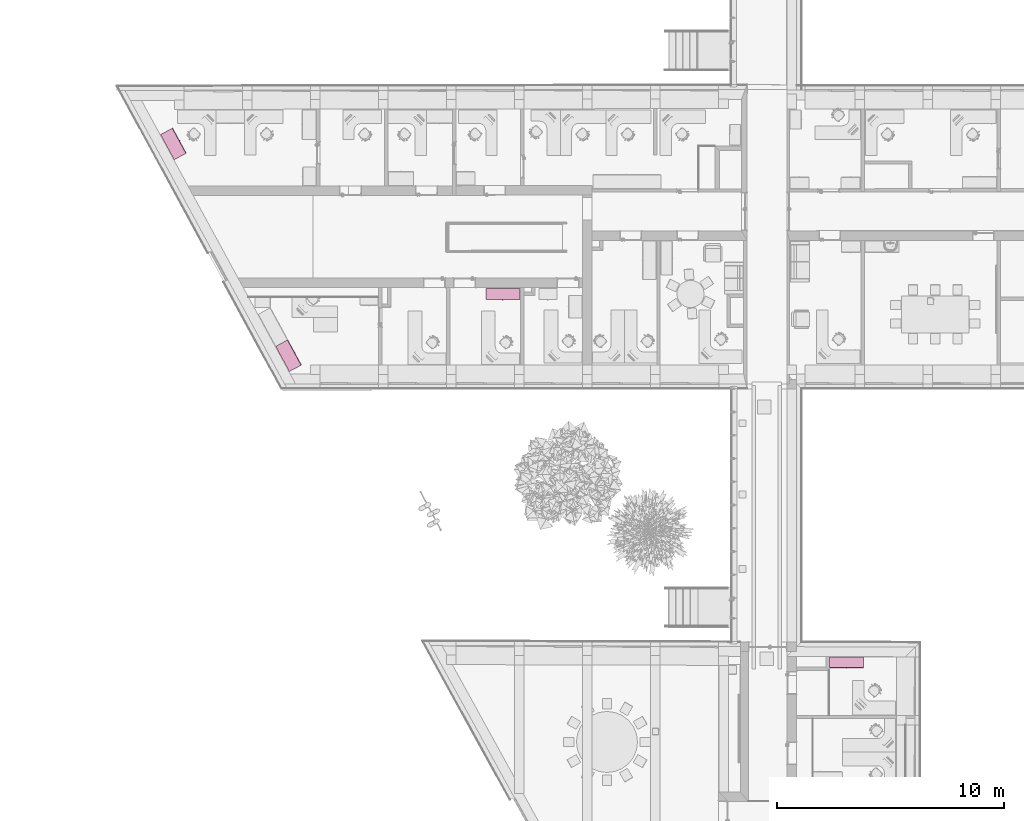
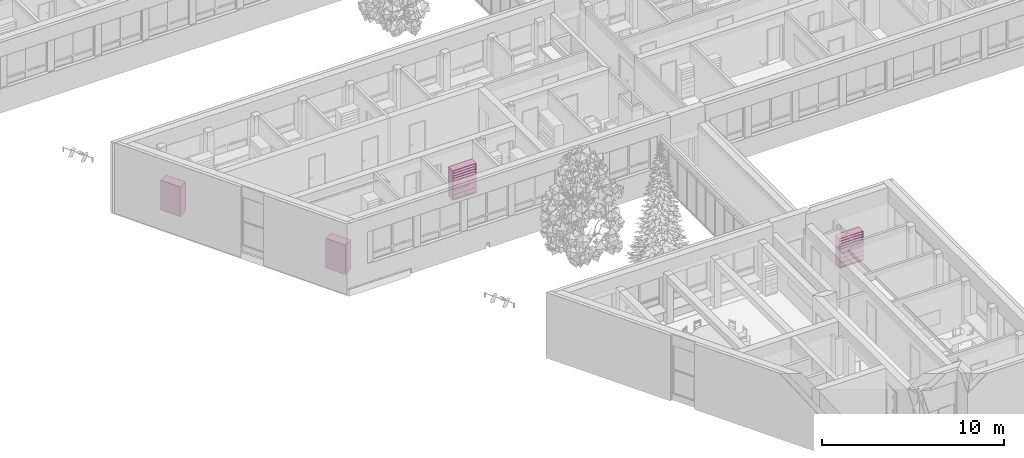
# One storey, part 126 of 194: 4 furnishings.
"""IFC2X3 building model written with IfcOpenShell, lengths in millimetres."""

from ifc_helpers import new_model, entity, si_unit, converted_unit, derived_unit, money_unit, direction, frame, origin_with_axes, place, context, subcontext, project, spatial, faceted_brep, source, transform, mapped, type_object, element, save


model = new_model("IFC2X3")

# Units and contexts
model_context = context("Model", 3, precision=1e-05, world=origin_with_axes(), true_north=direction((0.0, 1.0)))
body_context = subcontext(model_context, "Body", "Model", "MODEL_VIEW")
ifc_project = project(units=[si_unit("LENGTHUNIT", "METRE", prefix="MILLI"), si_unit("AREAUNIT", "SQUARE_METRE"), si_unit("VOLUMEUNIT", "CUBIC_METRE"), converted_unit("PLANEANGLEUNIT", "DEGREE", entity("IfcPlaneAngleMeasure", 0.0174532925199), si_unit("PLANEANGLEUNIT", "RADIAN"), dimensions=[0, 0, 0, 0, 0, 0, 0]), si_unit("SOLIDANGLEUNIT", "STERADIAN"), money_unit("EUR"), converted_unit("TIMEUNIT", "Year", entity("IfcTimeMeasure", 31556926.0), si_unit("TIMEUNIT", "SECOND"), dimensions=[0, 0, 1, 0, 0, 0, 0]), si_unit("MASSUNIT", "GRAM", prefix="KILO"), si_unit("THERMODYNAMICTEMPERATUREUNIT", "DEGREE_CELSIUS"), si_unit("LUMINOUSINTENSITYUNIT", "LUMEN"), si_unit("ENERGYUNIT", "JOULE", prefix="MEGA"), derived_unit("THERMALCONDUCTANCEUNIT", [(si_unit("POWERUNIT", "WATT"), 1), (si_unit("LENGTHUNIT", "METRE"), -1), (si_unit("THERMODYNAMICTEMPERATUREUNIT", "KELVIN"), -1)]), derived_unit("SPECIFICHEATCAPACITYUNIT", [(si_unit("ENERGYUNIT", "JOULE"), 1), (si_unit("MASSUNIT", "GRAM", prefix="KILO"), -1), (si_unit("THERMODYNAMICTEMPERATUREUNIT", "KELVIN"), -1)]), derived_unit("MASSDENSITYUNIT", [(si_unit("MASSUNIT", "GRAM", prefix="KILO"), 1), (si_unit("VOLUMEUNIT", "CUBIC_METRE"), -1)])], contexts=[model_context])

# Site, building, storey
site_placement = place(None, origin_with_axes())
site = spatial("IfcSite", under=ifc_project, at=site_placement, Name="Site", CompositionType="ELEMENT")
building_placement = place(site_placement, origin_with_axes())
building = spatial("IfcBuilding", under=site, at=building_placement, Name="Building", CompositionType="ELEMENT")
storey_placement = place(building_placement, frame((0.0, 0.0, 3000.0), z_axis=(0.0, 0.0, 1.0), x_axis=(1.0, 0.0, 0.0)))
storey = spatial("IfcBuildingStorey", under=building, at=storey_placement, Name="2 KORRUS", CompositionType="ELEMENT", Elevation=3000.0)

# Furnishings
furnishing_element_type_1 = type_object("IfcFurnishingElementType", Name="Model Element 74")
shared_shape_1 = source(origin_with_axes(), body_context, "Body", "Brep", [
    faceted_brep([(1500.0, 19.0, 0.0), (0.0, 19.0, 0.0), (0.0, 501.688731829, 0.0), (1500.0, 501.688731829, 0.0), (1500.0, 19.0, 100.0), (0.0, 19.0, 100.0), (0.0, 501.688731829, 100.0), (1500.0, 501.688731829, 100.0)], [[[0, 1, 2, 3]], [[1, 0, 4, 5]], [[2, 1, 5, 6]], [[3, 2, 6, 7]], [[0, 3, 7, 4]], [[5, 4, 7, 6]]]),
    faceted_brep([(19.0, 501.688731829, 119.0), (19.0, 482.688731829, 119.0), (19.0, 482.688731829, 1981.0), (19.0, 501.688731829, 1981.0), (1481.0, 501.688731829, 119.0), (1481.0, 482.688731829, 119.0), (1481.0, 482.688731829, 1981.0), (1481.0, 501.688731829, 1981.0)], [[[0, 1, 2, 3]], [[0, 4, 5, 1]], [[1, 5, 6, 2]], [[3, 2, 6, 7]], [[4, 0, 3, 7]], [[5, 4, 7, 6]]]),
    faceted_brep([(1500.0, 19.0, 100.0), (1481.0, 19.0, 100.0), (1481.0, 501.688731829, 100.0), (1500.0, 501.688731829, 100.0), (1500.0, 19.0, 2000.0), (1481.0, 19.0, 2000.0), (1481.0, 501.688731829, 2000.0), (1500.0, 501.688731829, 2000.0)], [[[0, 1, 2, 3]], [[1, 0, 4, 5]], [[2, 1, 5, 6]], [[3, 2, 6, 7]], [[0, 3, 7, 4]], [[5, 4, 7, 6]]]),
    faceted_brep([(19.0, 19.0, 100.0), (0.0, 19.0, 100.0), (0.0, 501.688731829, 100.0), (19.0, 501.688731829, 100.0), (19.0, 19.0, 2000.0), (0.0, 19.0, 2000.0), (0.0, 501.688731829, 2000.0), (19.0, 501.688731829, 2000.0)], [[[0, 1, 2, 3]], [[1, 0, 4, 5]], [[2, 1, 5, 6]], [[3, 2, 6, 7]], [[0, 3, 7, 4]], [[5, 4, 7, 6]]]),
    faceted_brep([(1481.0, 19.0, 100.0), (19.0, 19.0, 100.0), (19.0, 501.688731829, 100.0), (1481.0, 501.688731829, 100.0), (1481.0, 19.0, 119.0), (19.0, 19.0, 119.0), (19.0, 501.688731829, 119.0), (1481.0, 501.688731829, 119.0)], [[[0, 1, 2, 3]], [[1, 0, 4, 5]], [[2, 1, 5, 6]], [[3, 2, 6, 7]], [[0, 3, 7, 4]], [[5, 4, 7, 6]]]),
    faceted_brep([(1481.0, 19.0, 1981.0), (19.0, 19.0, 1981.0), (19.0, 501.688731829, 1981.0), (1481.0, 501.688731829, 1981.0), (1481.0, 19.0, 2000.0), (19.0, 19.0, 2000.0), (19.0, 501.688731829, 2000.0), (1481.0, 501.688731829, 2000.0)], [[[0, 1, 2, 3]], [[1, 0, 4, 5]], [[2, 1, 5, 6]], [[3, 2, 6, 7]], [[0, 3, 7, 4]], [[5, 4, 7, 6]]]),
    faceted_brep([(5.0, 19.0, 105.0), (1495.0, 19.0, 105.0), (1495.0, 0.0, 105.0), (5.0, 0.0, 105.0), (5.0, 19.0, 395.0), (1495.0, 19.0, 395.0), (1495.0, 0.0, 395.0), (5.0, 0.0, 395.0)], [[[0, 1, 2, 3]], [[0, 4, 5, 1]], [[1, 5, 6, 2]], [[3, 2, 6, 7]], [[4, 0, 3, 7]], [[5, 4, 7, 6]]]),
    faceted_brep([(760.392304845, 0.0, 244.0), (756.0, 0.0, 239.607695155), (750.0, 0.0, 238.0), (744.0, 0.0, 239.607695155), (739.607695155, 0.0, 244.0), (738.0, 0.0, 250.0), (739.607695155, 0.0, 256.0), (744.0, 0.0, 260.392304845), (750.0, 0.0, 262.0), (756.0, 0.0, 260.392304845), (760.392304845, 0.0, 256.0), (762.0, 0.0, 250.0), (760.392304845, -25.0, 244.0), (756.0, -25.0, 239.607695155), (750.0, -25.0, 238.0), (744.0, -25.0, 239.607695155), (739.607695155, -25.0, 244.0), (738.0, -25.0, 250.0), (739.607695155, -25.0, 256.0), (744.0, -25.0, 260.392304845), (750.0, -25.0, 262.0), (756.0, -25.0, 260.392304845), (760.392304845, -25.0, 256.0), (762.0, -25.0, 250.0)], [[[0, 1, 2, 3, 4, 5, 6, 7, 8, 9, 10, 11]], [[1, 0, 12, 13]], [[2, 1, 13, 14]], [[3, 2, 14, 15]], [[4, 3, 15, 16]], [[5, 4, 16, 17]], [[6, 5, 17, 18]], [[7, 6, 18, 19]], [[8, 7, 19, 20]], [[9, 8, 20, 21]], [[10, 9, 21, 22]], [[11, 10, 22, 23]], [[0, 11, 23, 12]], [[12, 23, 22, 21, 20, 19, 18, 17, 16, 15, 14, 13]]]),
    faceted_brep([(5.0, 19.0, 405.0), (1495.0, 19.0, 405.0), (1495.0, 0.0, 405.0), (5.0, 0.0, 405.0), (5.0, 19.0, 695.0), (1495.0, 19.0, 695.0), (1495.0, 0.0, 695.0), (5.0, 0.0, 695.0)], [[[0, 1, 2, 3]], [[0, 4, 5, 1]], [[1, 5, 6, 2]], [[3, 2, 6, 7]], [[4, 0, 3, 7]], [[5, 4, 7, 6]]]),
    faceted_brep([(760.392304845, 0.0, 544.0), (756.0, 0.0, 539.607695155), (750.0, 0.0, 538.0), (744.0, 0.0, 539.607695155), (739.607695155, 0.0, 544.0), (738.0, 0.0, 550.0), (739.607695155, 0.0, 556.0), (744.0, 0.0, 560.392304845), (750.0, 0.0, 562.0), (756.0, 0.0, 560.392304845), (760.392304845, 0.0, 556.0), (762.0, 0.0, 550.0), (760.392304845, -25.0, 544.0), (756.0, -25.0, 539.607695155), (750.0, -25.0, 538.0), (744.0, -25.0, 539.607695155), (739.607695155, -25.0, 544.0), (738.0, -25.0, 550.0), (739.607695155, -25.0, 556.0), (744.0, -25.0, 560.392304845), (750.0, -25.0, 562.0), (756.0, -25.0, 560.392304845), (760.392304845, -25.0, 556.0), (762.0, -25.0, 550.0)], [[[0, 1, 2, 3, 4, 5, 6, 7, 8, 9, 10, 11]], [[1, 0, 12, 13]], [[2, 1, 13, 14]], [[3, 2, 14, 15]], [[4, 3, 15, 16]], [[5, 4, 16, 17]], [[6, 5, 17, 18]], [[7, 6, 18, 19]], [[8, 7, 19, 20]], [[9, 8, 20, 21]], [[10, 9, 21, 22]], [[11, 10, 22, 23]], [[0, 11, 23, 12]], [[12, 23, 22, 21, 20, 19, 18, 17, 16, 15, 14, 13]]]),
    faceted_brep([(5.0, 19.0, 705.0), (1495.0, 19.0, 705.0), (1495.0, 0.0, 705.0), (5.0, 0.0, 705.0), (5.0, 19.0, 995.0), (1495.0, 19.0, 995.0), (1495.0, 0.0, 995.0), (5.0, 0.0, 995.0)], [[[0, 1, 2, 3]], [[0, 4, 5, 1]], [[1, 5, 6, 2]], [[3, 2, 6, 7]], [[4, 0, 3, 7]], [[5, 4, 7, 6]]]),
    faceted_brep([(760.392304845, 0.0, 844.0), (756.0, 0.0, 839.607695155), (750.0, 0.0, 838.0), (744.0, 0.0, 839.607695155), (739.607695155, 0.0, 844.0), (738.0, 0.0, 850.0), (739.607695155, 0.0, 856.0), (744.0, 0.0, 860.392304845), (750.0, 0.0, 862.0), (756.0, 0.0, 860.392304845), (760.392304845, 0.0, 856.0), (762.0, 0.0, 850.0), (760.392304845, -25.0, 844.0), (756.0, -25.0, 839.607695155), (750.0, -25.0, 838.0), (744.0, -25.0, 839.607695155), (739.607695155, -25.0, 844.0), (738.0, -25.0, 850.0), (739.607695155, -25.0, 856.0), (744.0, -25.0, 860.392304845), (750.0, -25.0, 862.0), (756.0, -25.0, 860.392304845), (760.392304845, -25.0, 856.0), (762.0, -25.0, 850.0)], [[[0, 1, 2, 3, 4, 5, 6, 7, 8, 9, 10, 11]], [[1, 0, 12, 13]], [[2, 1, 13, 14]], [[3, 2, 14, 15]], [[4, 3, 15, 16]], [[5, 4, 16, 17]], [[6, 5, 17, 18]], [[7, 6, 18, 19]], [[8, 7, 19, 20]], [[9, 8, 20, 21]], [[10, 9, 21, 22]], [[11, 10, 22, 23]], [[0, 11, 23, 12]], [[12, 23, 22, 21, 20, 19, 18, 17, 16, 15, 14, 13]]]),
    faceted_brep([(5.0, 19.0, 1005.0), (1495.0, 19.0, 1005.0), (1495.0, 0.0, 1005.0), (5.0, 0.0, 1005.0), (5.0, 19.0, 1295.0), (1495.0, 19.0, 1295.0), (1495.0, 0.0, 1295.0), (5.0, 0.0, 1295.0)], [[[0, 1, 2, 3]], [[0, 4, 5, 1]], [[1, 5, 6, 2]], [[3, 2, 6, 7]], [[4, 0, 3, 7]], [[5, 4, 7, 6]]]),
    faceted_brep([(760.392304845, 0.0, 1144.0), (756.0, 0.0, 1139.60769515), (750.0, 0.0, 1138.0), (744.0, 0.0, 1139.60769515), (739.607695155, 0.0, 1144.0), (738.0, 0.0, 1150.0), (739.607695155, 0.0, 1156.0), (744.0, 0.0, 1160.39230485), (750.0, 0.0, 1162.0), (756.0, 0.0, 1160.39230485), (760.392304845, 0.0, 1156.0), (762.0, 0.0, 1150.0), (760.392304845, -25.0, 1144.0), (756.0, -25.0, 1139.60769515), (750.0, -25.0, 1138.0), (744.0, -25.0, 1139.60769515), (739.607695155, -25.0, 1144.0), (738.0, -25.0, 1150.0), (739.607695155, -25.0, 1156.0), (744.0, -25.0, 1160.39230485), (750.0, -25.0, 1162.0), (756.0, -25.0, 1160.39230485), (760.392304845, -25.0, 1156.0), (762.0, -25.0, 1150.0)], [[[0, 1, 2, 3, 4, 5, 6, 7, 8, 9, 10, 11]], [[1, 0, 12, 13]], [[2, 1, 13, 14]], [[3, 2, 14, 15]], [[4, 3, 15, 16]], [[5, 4, 16, 17]], [[6, 5, 17, 18]], [[7, 6, 18, 19]], [[8, 7, 19, 20]], [[9, 8, 20, 21]], [[10, 9, 21, 22]], [[11, 10, 22, 23]], [[0, 11, 23, 12]], [[12, 23, 22, 21, 20, 19, 18, 17, 16, 15, 14, 13]]]),
    faceted_brep([(19.0, 19.0, 390.5), (1481.0, 19.0, 390.5), (1481.0, 19.0, 409.5), (19.0, 19.0, 409.5), (19.0, 482.688731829, 390.5), (1481.0, 482.688731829, 390.5), (1481.0, 482.688731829, 409.5), (19.0, 482.688731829, 409.5)], [[[0, 1, 2, 3]], [[0, 4, 5, 1]], [[1, 5, 6, 2]], [[3, 2, 6, 7]], [[4, 0, 3, 7]], [[5, 4, 7, 6]]]),
    faceted_brep([(19.0, 19.0, 690.5), (1481.0, 19.0, 690.5), (1481.0, 19.0, 709.5), (19.0, 19.0, 709.5), (19.0, 482.688731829, 690.5), (1481.0, 482.688731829, 690.5), (1481.0, 482.688731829, 709.5), (19.0, 482.688731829, 709.5)], [[[0, 1, 2, 3]], [[0, 4, 5, 1]], [[1, 5, 6, 2]], [[3, 2, 6, 7]], [[4, 0, 3, 7]], [[5, 4, 7, 6]]]),
    faceted_brep([(19.0, 19.0, 990.5), (1481.0, 19.0, 990.5), (1481.0, 19.0, 1009.5), (19.0, 19.0, 1009.5), (19.0, 482.688731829, 990.5), (1481.0, 482.688731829, 990.5), (1481.0, 482.688731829, 1009.5), (19.0, 482.688731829, 1009.5)], [[[0, 1, 2, 3]], [[0, 4, 5, 1]], [[1, 5, 6, 2]], [[3, 2, 6, 7]], [[4, 0, 3, 7]], [[5, 4, 7, 6]]]),
    faceted_brep([(19.0, 19.0, 1290.5), (1481.0, 19.0, 1290.5), (1481.0, 19.0, 1309.5), (19.0, 19.0, 1309.5), (19.0, 482.688731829, 1290.5), (1481.0, 482.688731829, 1290.5), (1481.0, 482.688731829, 1309.5), (19.0, 482.688731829, 1309.5)], [[[0, 1, 2, 3]], [[0, 4, 5, 1]], [[1, 5, 6, 2]], [[3, 2, 6, 7]], [[4, 0, 3, 7]], [[5, 4, 7, 6]]]),
    faceted_brep([(1481.0, 19.0, 1463.125), (19.0, 19.0, 1463.125), (19.0, 482.688731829, 1463.125), (1481.0, 482.688731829, 1463.125), (1481.0, 19.0, 1482.125), (19.0, 19.0, 1482.125), (19.0, 482.688731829, 1482.125), (1481.0, 482.688731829, 1482.125)], [[[0, 1, 2, 3]], [[1, 0, 4, 5]], [[2, 1, 5, 6]], [[3, 2, 6, 7]], [[0, 3, 7, 4]], [[5, 4, 7, 6]]]),
    faceted_brep([(1481.0, 19.0, 1635.75), (19.0, 19.0, 1635.75), (19.0, 482.688731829, 1635.75), (1481.0, 482.688731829, 1635.75), (1481.0, 19.0, 1654.75), (19.0, 19.0, 1654.75), (19.0, 482.688731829, 1654.75), (1481.0, 482.688731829, 1654.75)], [[[0, 1, 2, 3]], [[1, 0, 4, 5]], [[2, 1, 5, 6]], [[3, 2, 6, 7]], [[0, 3, 7, 4]], [[5, 4, 7, 6]]]),
    faceted_brep([(1481.0, 19.0, 1808.375), (19.0, 19.0, 1808.375), (19.0, 482.688731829, 1808.375), (1481.0, 482.688731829, 1808.375), (1481.0, 19.0, 1827.375), (19.0, 19.0, 1827.375), (19.0, 482.688731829, 1827.375), (1481.0, 482.688731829, 1827.375)], [[[0, 1, 2, 3]], [[1, 0, 4, 5]], [[2, 1, 5, 6]], [[3, 2, 6, 7]], [[0, 3, 7, 4]], [[5, 4, 7, 6]]]),
])
for number, where, z_axis, x_axis, name in (
    (1, (26467.4447788, 38062.9320392, 0.0), (0.0, 0.0, 1.0), (0.999999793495, -0.000642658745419, 0.0), "FU - 001"),
    (2, (41613.009103, 21819.8406599, 0.0), (0.0, 0.0, 1.0), (0.999999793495, -0.000642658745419, 0.0), "FU - 001"),
):
    element("IfcFurnishingElement", number, at=place(storey_placement, frame(where, z_axis=z_axis, x_axis=x_axis)), inside=storey, type_object=furnishing_element_type_1, Name=name, context=body_context, shape_type="MappedRepresentation", body=[
        mapped(shared_shape_1, transform((0.0, 0.0, 0.0))),
    ])
furnishing_element_type_2 = type_object("IfcFurnishingElementType", Name="Model Element 16")
shared_shape_2 = source(origin_with_axes(), body_context, "Body", "Brep", [
    faceted_brep([(1262.46161787, 19.0, 0.0), (0.0, 19.0, 0.0), (0.0, 605.7383933, 0.0), (1262.46161787, 605.7383933, 0.0), (1262.46161787, 19.0, 100.0), (0.0, 19.0, 100.0), (0.0, 605.7383933, 100.0), (1262.46161787, 605.7383933, 100.0)], [[[0, 1, 2, 3]], [[1, 0, 4, 5]], [[2, 1, 5, 6]], [[3, 2, 6, 7]], [[0, 3, 7, 4]], [[5, 4, 7, 6]]]),
    faceted_brep([(19.0, 605.7383933, 119.0), (19.0, 586.7383933, 119.0), (19.0, 586.7383933, 1981.0), (19.0, 605.7383933, 1981.0), (1243.46161787, 605.7383933, 119.0), (1243.46161787, 586.7383933, 119.0), (1243.46161787, 586.7383933, 1981.0), (1243.46161787, 605.7383933, 1981.0)], [[[0, 1, 2, 3]], [[0, 4, 5, 1]], [[1, 5, 6, 2]], [[3, 2, 6, 7]], [[4, 0, 3, 7]], [[5, 4, 7, 6]]]),
    faceted_brep([(1262.46161787, 19.0, 100.0), (1243.46161787, 19.0, 100.0), (1243.46161787, 605.7383933, 100.0), (1262.46161787, 605.7383933, 100.0), (1262.46161787, 19.0, 2000.0), (1243.46161787, 19.0, 2000.0), (1243.46161787, 605.7383933, 2000.0), (1262.46161787, 605.7383933, 2000.0)], [[[0, 1, 2, 3]], [[1, 0, 4, 5]], [[2, 1, 5, 6]], [[3, 2, 6, 7]], [[0, 3, 7, 4]], [[5, 4, 7, 6]]]),
    faceted_brep([(19.0, 19.0, 100.0), (0.0, 19.0, 100.0), (0.0, 605.7383933, 100.0), (19.0, 605.7383933, 100.0), (19.0, 19.0, 2000.0), (0.0, 19.0, 2000.0), (0.0, 605.7383933, 2000.0), (19.0, 605.7383933, 2000.0)], [[[0, 1, 2, 3]], [[1, 0, 4, 5]], [[2, 1, 5, 6]], [[3, 2, 6, 7]], [[0, 3, 7, 4]], [[5, 4, 7, 6]]]),
    faceted_brep([(1243.46161787, 19.0, 100.0), (19.0, 19.0, 100.0), (19.0, 605.7383933, 100.0), (1243.46161787, 605.7383933, 100.0), (1243.46161787, 19.0, 119.0), (19.0, 19.0, 119.0), (19.0, 605.7383933, 119.0), (1243.46161787, 605.7383933, 119.0)], [[[0, 1, 2, 3]], [[1, 0, 4, 5]], [[2, 1, 5, 6]], [[3, 2, 6, 7]], [[0, 3, 7, 4]], [[5, 4, 7, 6]]]),
    faceted_brep([(1243.46161787, 19.0, 1981.0), (19.0, 19.0, 1981.0), (19.0, 605.7383933, 1981.0), (1243.46161787, 605.7383933, 1981.0), (1243.46161787, 19.0, 2000.0), (19.0, 19.0, 2000.0), (19.0, 605.7383933, 2000.0), (1243.46161787, 605.7383933, 2000.0)], [[[0, 1, 2, 3]], [[1, 0, 4, 5]], [[2, 1, 5, 6]], [[3, 2, 6, 7]], [[0, 3, 7, 4]], [[5, 4, 7, 6]]]),
    faceted_brep([(5.0, 19.0, 105.0), (1257.46161787, 19.0, 105.0), (1257.46161787, 0.0, 105.0), (5.0, 0.0, 105.0), (5.0, 19.0, 395.0), (1257.46161787, 19.0, 395.0), (1257.46161787, 0.0, 395.0), (5.0, 0.0, 395.0)], [[[0, 1, 2, 3]], [[0, 4, 5, 1]], [[1, 5, 6, 2]], [[3, 2, 6, 7]], [[4, 0, 3, 7]], [[5, 4, 7, 6]]]),
    faceted_brep([(641.623113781, 0.0, 244.0), (637.230808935, 0.0, 239.607695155), (631.230808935, 0.0, 238.0), (625.230808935, 0.0, 239.607695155), (620.83850409, 0.0, 244.0), (619.230808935, 0.0, 250.0), (620.83850409, 0.0, 256.0), (625.230808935, 0.0, 260.392304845), (631.230808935, 0.0, 262.0), (637.230808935, 0.0, 260.392304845), (641.623113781, 0.0, 256.0), (643.230808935, 0.0, 250.0), (641.623113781, -25.0, 244.0), (637.230808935, -25.0, 239.607695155), (631.230808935, -25.0, 238.0), (625.230808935, -25.0, 239.607695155), (620.83850409, -25.0, 244.0), (619.230808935, -25.0, 250.0), (620.83850409, -25.0, 256.0), (625.230808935, -25.0, 260.392304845), (631.230808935, -25.0, 262.0), (637.230808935, -25.0, 260.392304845), (641.623113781, -25.0, 256.0), (643.230808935, -25.0, 250.0)], [[[0, 1, 2, 3, 4, 5, 6, 7, 8, 9, 10, 11]], [[1, 0, 12, 13]], [[2, 1, 13, 14]], [[3, 2, 14, 15]], [[4, 3, 15, 16]], [[5, 4, 16, 17]], [[6, 5, 17, 18]], [[7, 6, 18, 19]], [[8, 7, 19, 20]], [[9, 8, 20, 21]], [[10, 9, 21, 22]], [[11, 10, 22, 23]], [[0, 11, 23, 12]], [[12, 23, 22, 21, 20, 19, 18, 17, 16, 15, 14, 13]]]),
    faceted_brep([(5.0, 19.0, 405.0), (1257.46161787, 19.0, 405.0), (1257.46161787, 0.0, 405.0), (5.0, 0.0, 405.0), (5.0, 19.0, 695.0), (1257.46161787, 19.0, 695.0), (1257.46161787, 0.0, 695.0), (5.0, 0.0, 695.0)], [[[0, 1, 2, 3]], [[0, 4, 5, 1]], [[1, 5, 6, 2]], [[3, 2, 6, 7]], [[4, 0, 3, 7]], [[5, 4, 7, 6]]]),
    faceted_brep([(641.623113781, 0.0, 544.0), (637.230808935, 0.0, 539.607695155), (631.230808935, 0.0, 538.0), (625.230808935, 0.0, 539.607695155), (620.83850409, 0.0, 544.0), (619.230808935, 0.0, 550.0), (620.83850409, 0.0, 556.0), (625.230808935, 0.0, 560.392304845), (631.230808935, 0.0, 562.0), (637.230808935, 0.0, 560.392304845), (641.623113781, 0.0, 556.0), (643.230808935, 0.0, 550.0), (641.623113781, -25.0, 544.0), (637.230808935, -25.0, 539.607695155), (631.230808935, -25.0, 538.0), (625.230808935, -25.0, 539.607695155), (620.83850409, -25.0, 544.0), (619.230808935, -25.0, 550.0), (620.83850409, -25.0, 556.0), (625.230808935, -25.0, 560.392304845), (631.230808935, -25.0, 562.0), (637.230808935, -25.0, 560.392304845), (641.623113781, -25.0, 556.0), (643.230808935, -25.0, 550.0)], [[[0, 1, 2, 3, 4, 5, 6, 7, 8, 9, 10, 11]], [[1, 0, 12, 13]], [[2, 1, 13, 14]], [[3, 2, 14, 15]], [[4, 3, 15, 16]], [[5, 4, 16, 17]], [[6, 5, 17, 18]], [[7, 6, 18, 19]], [[8, 7, 19, 20]], [[9, 8, 20, 21]], [[10, 9, 21, 22]], [[11, 10, 22, 23]], [[0, 11, 23, 12]], [[12, 23, 22, 21, 20, 19, 18, 17, 16, 15, 14, 13]]]),
    faceted_brep([(5.0, 19.0, 705.0), (1257.46161787, 19.0, 705.0), (1257.46161787, 0.0, 705.0), (5.0, 0.0, 705.0), (5.0, 19.0, 995.0), (1257.46161787, 19.0, 995.0), (1257.46161787, 0.0, 995.0), (5.0, 0.0, 995.0)], [[[0, 1, 2, 3]], [[0, 4, 5, 1]], [[1, 5, 6, 2]], [[3, 2, 6, 7]], [[4, 0, 3, 7]], [[5, 4, 7, 6]]]),
    faceted_brep([(641.623113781, 0.0, 844.0), (637.230808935, 0.0, 839.607695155), (631.230808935, 0.0, 838.0), (625.230808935, 0.0, 839.607695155), (620.83850409, 0.0, 844.0), (619.230808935, 0.0, 850.0), (620.83850409, 0.0, 856.0), (625.230808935, 0.0, 860.392304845), (631.230808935, 0.0, 862.0), (637.230808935, 0.0, 860.392304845), (641.623113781, 0.0, 856.0), (643.230808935, 0.0, 850.0), (641.623113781, -25.0, 844.0), (637.230808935, -25.0, 839.607695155), (631.230808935, -25.0, 838.0), (625.230808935, -25.0, 839.607695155), (620.83850409, -25.0, 844.0), (619.230808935, -25.0, 850.0), (620.83850409, -25.0, 856.0), (625.230808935, -25.0, 860.392304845), (631.230808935, -25.0, 862.0), (637.230808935, -25.0, 860.392304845), (641.623113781, -25.0, 856.0), (643.230808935, -25.0, 850.0)], [[[0, 1, 2, 3, 4, 5, 6, 7, 8, 9, 10, 11]], [[1, 0, 12, 13]], [[2, 1, 13, 14]], [[3, 2, 14, 15]], [[4, 3, 15, 16]], [[5, 4, 16, 17]], [[6, 5, 17, 18]], [[7, 6, 18, 19]], [[8, 7, 19, 20]], [[9, 8, 20, 21]], [[10, 9, 21, 22]], [[11, 10, 22, 23]], [[0, 11, 23, 12]], [[12, 23, 22, 21, 20, 19, 18, 17, 16, 15, 14, 13]]]),
    faceted_brep([(5.0, 19.0, 1005.0), (1257.46161787, 19.0, 1005.0), (1257.46161787, 0.0, 1005.0), (5.0, 0.0, 1005.0), (5.0, 19.0, 1295.0), (1257.46161787, 19.0, 1295.0), (1257.46161787, 0.0, 1295.0), (5.0, 0.0, 1295.0)], [[[0, 1, 2, 3]], [[0, 4, 5, 1]], [[1, 5, 6, 2]], [[3, 2, 6, 7]], [[4, 0, 3, 7]], [[5, 4, 7, 6]]]),
    faceted_brep([(641.623113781, 0.0, 1144.0), (637.230808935, 0.0, 1139.60769515), (631.230808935, 0.0, 1138.0), (625.230808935, 0.0, 1139.60769515), (620.83850409, 0.0, 1144.0), (619.230808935, 0.0, 1150.0), (620.83850409, 0.0, 1156.0), (625.230808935, 0.0, 1160.39230485), (631.230808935, 0.0, 1162.0), (637.230808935, 0.0, 1160.39230485), (641.623113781, 0.0, 1156.0), (643.230808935, 0.0, 1150.0), (641.623113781, -25.0, 1144.0), (637.230808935, -25.0, 1139.60769515), (631.230808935, -25.0, 1138.0), (625.230808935, -25.0, 1139.60769515), (620.83850409, -25.0, 1144.0), (619.230808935, -25.0, 1150.0), (620.83850409, -25.0, 1156.0), (625.230808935, -25.0, 1160.39230485), (631.230808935, -25.0, 1162.0), (637.230808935, -25.0, 1160.39230485), (641.623113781, -25.0, 1156.0), (643.230808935, -25.0, 1150.0)], [[[0, 1, 2, 3, 4, 5, 6, 7, 8, 9, 10, 11]], [[1, 0, 12, 13]], [[2, 1, 13, 14]], [[3, 2, 14, 15]], [[4, 3, 15, 16]], [[5, 4, 16, 17]], [[6, 5, 17, 18]], [[7, 6, 18, 19]], [[8, 7, 19, 20]], [[9, 8, 20, 21]], [[10, 9, 21, 22]], [[11, 10, 22, 23]], [[0, 11, 23, 12]], [[12, 23, 22, 21, 20, 19, 18, 17, 16, 15, 14, 13]]]),
    faceted_brep([(19.0, 19.0, 390.5), (1243.46161787, 19.0, 390.5), (1243.46161787, 19.0, 409.5), (19.0, 19.0, 409.5), (19.0, 586.7383933, 390.5), (1243.46161787, 586.7383933, 390.5), (1243.46161787, 586.7383933, 409.5), (19.0, 586.7383933, 409.5)], [[[0, 1, 2, 3]], [[0, 4, 5, 1]], [[1, 5, 6, 2]], [[3, 2, 6, 7]], [[4, 0, 3, 7]], [[5, 4, 7, 6]]]),
    faceted_brep([(19.0, 19.0, 690.5), (1243.46161787, 19.0, 690.5), (1243.46161787, 19.0, 709.5), (19.0, 19.0, 709.5), (19.0, 586.7383933, 690.5), (1243.46161787, 586.7383933, 690.5), (1243.46161787, 586.7383933, 709.5), (19.0, 586.7383933, 709.5)], [[[0, 1, 2, 3]], [[0, 4, 5, 1]], [[1, 5, 6, 2]], [[3, 2, 6, 7]], [[4, 0, 3, 7]], [[5, 4, 7, 6]]]),
    faceted_brep([(19.0, 19.0, 990.5), (1243.46161787, 19.0, 990.5), (1243.46161787, 19.0, 1009.5), (19.0, 19.0, 1009.5), (19.0, 586.7383933, 990.5), (1243.46161787, 586.7383933, 990.5), (1243.46161787, 586.7383933, 1009.5), (19.0, 586.7383933, 1009.5)], [[[0, 1, 2, 3]], [[0, 4, 5, 1]], [[1, 5, 6, 2]], [[3, 2, 6, 7]], [[4, 0, 3, 7]], [[5, 4, 7, 6]]]),
    faceted_brep([(19.0, 19.0, 1290.5), (1243.46161787, 19.0, 1290.5), (1243.46161787, 19.0, 1309.5), (19.0, 19.0, 1309.5), (19.0, 586.7383933, 1290.5), (1243.46161787, 586.7383933, 1290.5), (1243.46161787, 586.7383933, 1309.5), (19.0, 586.7383933, 1309.5)], [[[0, 1, 2, 3]], [[0, 4, 5, 1]], [[1, 5, 6, 2]], [[3, 2, 6, 7]], [[4, 0, 3, 7]], [[5, 4, 7, 6]]]),
    faceted_brep([(1243.46161787, 19.0, 1463.125), (19.0, 19.0, 1463.125), (19.0, 586.7383933, 1463.125), (1243.46161787, 586.7383933, 1463.125), (1243.46161787, 19.0, 1482.125), (19.0, 19.0, 1482.125), (19.0, 586.7383933, 1482.125), (1243.46161787, 586.7383933, 1482.125)], [[[0, 1, 2, 3]], [[1, 0, 4, 5]], [[2, 1, 5, 6]], [[3, 2, 6, 7]], [[0, 3, 7, 4]], [[5, 4, 7, 6]]]),
    faceted_brep([(1243.46161787, 19.0, 1635.75), (19.0, 19.0, 1635.75), (19.0, 586.7383933, 1635.75), (1243.46161787, 586.7383933, 1635.75), (1243.46161787, 19.0, 1654.75), (19.0, 19.0, 1654.75), (19.0, 586.7383933, 1654.75), (1243.46161787, 586.7383933, 1654.75)], [[[0, 1, 2, 3]], [[1, 0, 4, 5]], [[2, 1, 5, 6]], [[3, 2, 6, 7]], [[0, 3, 7, 4]], [[5, 4, 7, 6]]]),
    faceted_brep([(1243.46161787, 19.0, 1808.375), (19.0, 19.0, 1808.375), (19.0, 586.7383933, 1808.375), (1243.46161787, 586.7383933, 1808.375), (1243.46161787, 19.0, 1827.375), (19.0, 19.0, 1827.375), (19.0, 586.7383933, 1827.375), (1243.46161787, 586.7383933, 1827.375)], [[[0, 1, 2, 3]], [[1, 0, 4, 5]], [[2, 1, 5, 6]], [[3, 2, 6, 7]], [[0, 3, 7, 4]], [[5, 4, 7, 6]]]),
])
for number, where, z_axis, x_axis, name in (
    (3, (18339.2987369, 35185.534376, 0.0), (0.0, 0.0, 1.0), (-0.477572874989, 0.878592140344, 0.0), "FU - 001"),
    (4, (13262.5878433, 44521.8804046, 0.0), (0.0, 0.0, 1.0), (-0.477572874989, 0.878592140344, 0.0), "FU - 001"),
):
    element("IfcFurnishingElement", number, at=place(storey_placement, frame(where, z_axis=z_axis, x_axis=x_axis)), inside=storey, type_object=furnishing_element_type_2, Name=name, context=body_context, shape_type="MappedRepresentation", body=[
        mapped(shared_shape_2, transform((0.0, 0.0, 0.0))),
    ])

save(model, "model.ifc")
